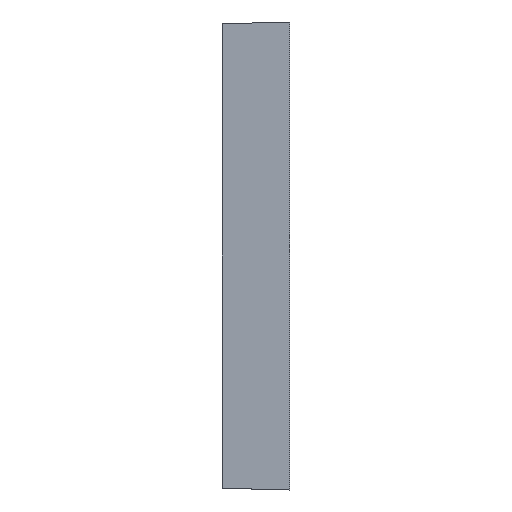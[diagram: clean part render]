
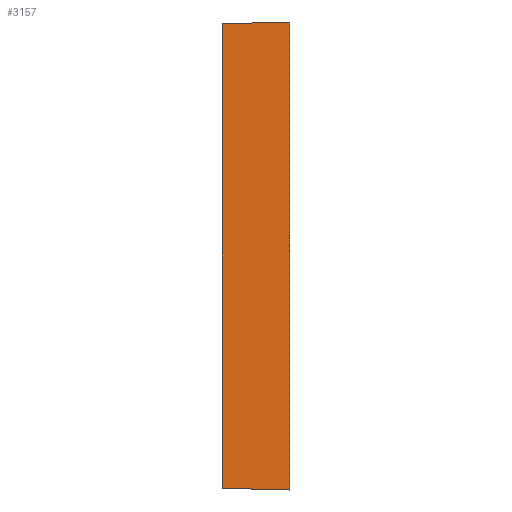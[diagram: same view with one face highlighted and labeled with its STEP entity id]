
A CAD part, left-side view. The second image highlights one B-rep face of the part: STEP entity #3157.
In plain terms, the highlighted planar face has unit normal (-1, 0.026, 0).
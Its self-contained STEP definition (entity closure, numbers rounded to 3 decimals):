
#782 = ORIENTED_EDGE ( 'NONE', *, *, #5333, .T. ) ;
#956 = VERTEX_POINT ( 'NONE', #17018 ) ;
#1292 = AXIS2_PLACEMENT_3D ( 'NONE', #3689, #28449, #26131 ) ;
#3157 = ADVANCED_FACE ( 'NONE', ( #10641 ), #3530, .T. ) ;
#3530 = PLANE ( 'NONE',  #1292 ) ;
#3689 = CARTESIAN_POINT ( 'NONE',  ( -244., 0., -184. ) ) ;
#4004 = DIRECTION ( 'NONE',  ( -0.026, -0.999, -0.026 ) ) ;
#4657 = DIRECTION ( 'NONE',  ( -0.026, -0.999, 0.026 ) ) ;
#5296 = VECTOR ( 'NONE', #4004, 1000. ) ;
#5333 = EDGE_CURVE ( 'NONE', #9870, #19436, #14611, .T. ) ;
#6643 = ORIENTED_EDGE ( 'NONE', *, *, #22392, .F. ) ;
#7024 = CARTESIAN_POINT ( 'NONE',  ( -244., 0., 184. ) ) ;
#8546 = VECTOR ( 'NONE', #29088, 1000. ) ;
#9663 = DIRECTION ( 'NONE',  ( 0., 0., 1. ) ) ;
#9692 = VECTOR ( 'NONE', #4657, 1000. ) ;
#9870 = VERTEX_POINT ( 'NONE', #14659 ) ;
#10641 = FACE_OUTER_BOUND ( 'NONE', #29685, .T. ) ;
#10838 = EDGE_CURVE ( 'NONE', #17250, #19436, #30073, .T. ) ;
#12788 = ORIENTED_EDGE ( 'NONE', *, *, #19605, .T. ) ;
#14611 = LINE ( 'NONE', #32301, #24999 ) ;
#14659 = CARTESIAN_POINT ( 'NONE',  ( -244., 0., -184. ) ) ;
#15867 = CARTESIAN_POINT ( 'NONE',  ( -242.612, 53., -184. ) ) ;
#16355 = LINE ( 'NONE', #19162, #5296 ) ;
#17018 = CARTESIAN_POINT ( 'NONE',  ( -242.612, 53., -182.612 ) ) ;
#17153 = CARTESIAN_POINT ( 'NONE',  ( -244., 0., 184. ) ) ;
#17250 = VERTEX_POINT ( 'NONE', #17866 ) ;
#17866 = CARTESIAN_POINT ( 'NONE',  ( -242.612, 53., 182.612 ) ) ;
#19162 = CARTESIAN_POINT ( 'NONE',  ( -244., 0., -184. ) ) ;
#19436 = VERTEX_POINT ( 'NONE', #7024 ) ;
#19605 = EDGE_CURVE ( 'NONE', #956, #9870, #16355, .T. ) ;
#20078 = ORIENTED_EDGE ( 'NONE', *, *, #10838, .F. ) ;
#22392 = EDGE_CURVE ( 'NONE', #956, #17250, #30936, .T. ) ;
#24999 = VECTOR ( 'NONE', #9663, 1000. ) ;
#26131 = DIRECTION ( 'NONE',  ( -0.026, -1., 0. ) ) ;
#28449 = DIRECTION ( 'NONE',  ( -1., 0.026, 0. ) ) ;
#29088 = DIRECTION ( 'NONE',  ( 0., 0., 1. ) ) ;
#29685 = EDGE_LOOP ( 'NONE', ( #782, #20078, #6643, #12788 ) ) ;
#30073 = LINE ( 'NONE', #17153, #9692 ) ;
#30936 = LINE ( 'NONE', #15867, #8546 ) ;
#32301 = CARTESIAN_POINT ( 'NONE',  ( -244., 0., -184. ) ) ;
